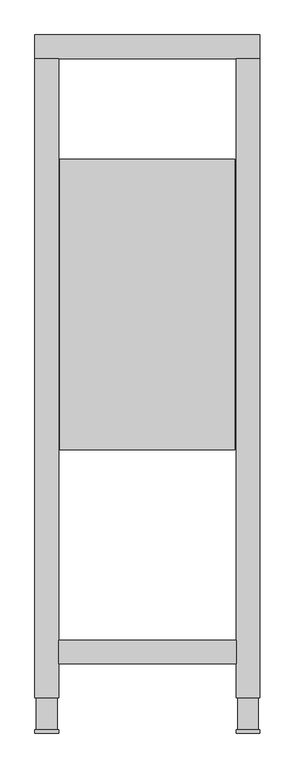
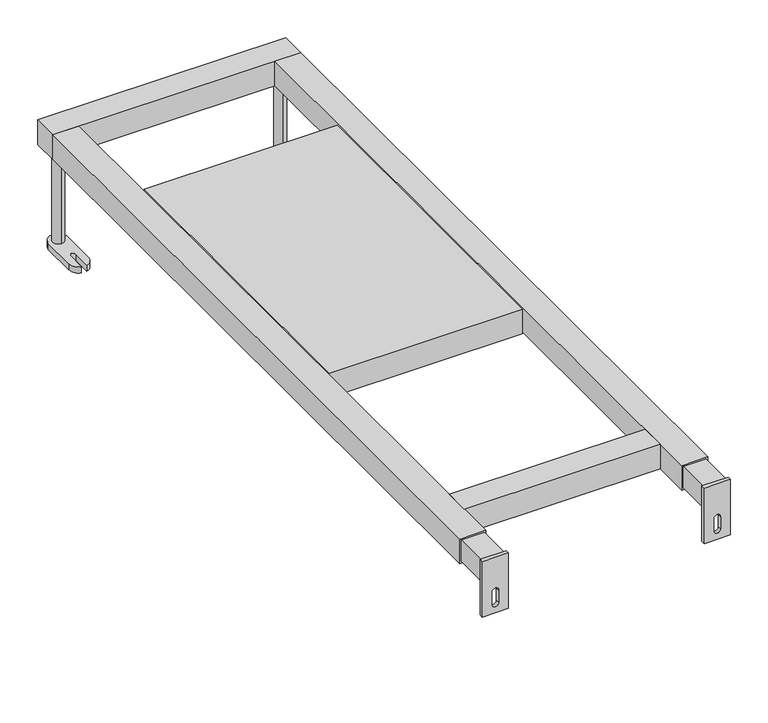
"""IFC4 building model written with IfcOpenShell, lengths in millimetres: sanitary terminal geometry, RSen_74_PF_FB_built in element armrest xs toilet support_wisa : xs toilet support_wisa_built in element armrest."""

from ifc_helpers import new_model, si_unit, point, frame, frame_2d, origin, origin_with_axes, place, context, project, spatial, polyline, circle_curve, trimmed, segment, composite_curve, outline, extrude, source, transform, mapped, element, save


def sanitary_terminal_3e1d858f(model_context):
    return source(origin(), model_context, "Body", "SweptSolid", [
        extrude(outline(polyline([(148.0, 969.9909566), (148.0, 478.9909566), (-148.0, 478.9909566), (-148.0, 969.9909566), (148.0, 969.9909566)])), frame((0.0, 0.0, 160.0), z_axis=(0.0, 0.0, 1.0), x_axis=(1.0, 0.0, 0.0)), (0.0, 0.0, 1.0), 40.0),
        extrude(outline(composite_curve([segment(trimmed(circle_curve(frame_2d((-170.0, 1160.0)), 8.75), [point((-170.0, 1151.25))], [point((-170.0, 1168.75))], False, "CARTESIAN"), True, "CONTINUOUS"), segment(trimmed(circle_curve(frame_2d((-170.0, 1160.0)), 8.75), [point((-170.0, 1168.75))], [point((-170.0, 1151.25))], False, "CARTESIAN"), True, "CONTINUOUS")], self_intersect=False)), frame((0.0, 0.0, 10.0), z_axis=(0.0, 0.0, 1.0), x_axis=(1.0, 0.0, 0.0)), (0.0, 0.0, 1.0), 150.0),
        extrude(outline(composite_curve([segment(trimmed(circle_curve(frame_2d((170.0, 1160.0)), 8.75), [point((170.0, 1151.25))], [point((170.0, 1168.75))], False, "CARTESIAN"), True, "CONTINUOUS"), segment(trimmed(circle_curve(frame_2d((170.0, 1160.0)), 8.75), [point((170.0, 1168.75))], [point((170.0, 1151.25))], False, "CARTESIAN"), True, "CONTINUOUS")], self_intersect=False)), frame((0.0, 0.0, 10.0), z_axis=(0.0, 0.0, 1.0), x_axis=(1.0, 0.0, 0.0)), (0.0, 0.0, 1.0), 150.0),
        extrude(outline(composite_curve([segment(trimmed(circle_curve(frame_2d((-170.0, 1160.0)), 15.0), [point((-185.0, 1160.0))], [point((-155.0, 1160.0))], False, "CARTESIAN"), True, "CONTINUOUS"), segment(polyline([(-155.0, 1160.0), (-155.0, 1106.0)]), True, "CONTINUOUS"), segment(trimmed(circle_curve(frame_2d((-170.0, 1106.0)), 15.0), [point((-155.0, 1106.0))], [point((-166.0, 1091.5431677))], False, "CARTESIAN"), True, "CONTINUOUS"), segment(polyline([(-166.0, 1091.5431677), (-166.0, 1120.4568323)]), True, "CONTINUOUS"), segment(trimmed(circle_curve(frame_2d((-170.0, 1120.4568323)), 4.0), [point((-166.0, 1120.4568323))], [point((-174.0, 1120.4568323))], True, "CARTESIAN"), True, "CONTINUOUS"), segment(polyline([(-174.0, 1120.4568323), (-174.0, 1091.5431677)]), True, "CONTINUOUS"), segment(trimmed(circle_curve(frame_2d((-170.0, 1106.0)), 15.0), [point((-174.0, 1091.5431677))], [point((-185.0, 1106.0))], False, "CARTESIAN"), True, "CONTINUOUS"), segment(polyline([(-185.0, 1106.0), (-185.0, 1160.0)]), True, "CONTINUOUS")], self_intersect=False)), origin_with_axes(), (0.0, 0.0, 1.0), 10.0),
        extrude(outline(composite_curve([segment(polyline([(185.0, 1160.0), (185.0, 1106.0)]), True, "CONTINUOUS"), segment(trimmed(circle_curve(frame_2d((170.0, 1106.0)), 15.0), [point((185.0, 1106.0))], [point((174.0, 1091.5431677))], False, "CARTESIAN"), True, "CONTINUOUS"), segment(polyline([(174.0, 1091.5431677), (174.0, 1120.4568323)]), True, "CONTINUOUS"), segment(trimmed(circle_curve(frame_2d((170.0, 1120.4568323)), 4.0), [point((174.0, 1120.4568323))], [point((166.0, 1120.4568323))], True, "CARTESIAN"), True, "CONTINUOUS"), segment(polyline([(166.0, 1120.4568323), (166.0, 1091.5431677)]), True, "CONTINUOUS"), segment(trimmed(circle_curve(frame_2d((170.0, 1106.0)), 15.0), [point((166.0, 1091.5431677))], [point((155.0, 1106.0))], False, "CARTESIAN"), True, "CONTINUOUS"), segment(polyline([(155.0, 1106.0), (155.0, 1160.0)]), True, "CONTINUOUS"), segment(trimmed(circle_curve(frame_2d((170.0, 1160.0)), 15.0), [point((155.0, 1160.0))], [point((185.0, 1160.0))], False, "CARTESIAN"), True, "CONTINUOUS")], self_intersect=False)), origin_with_axes(), (0.0, 0.0, 1.0), 10.0),
        extrude(outline(polyline([(-187.5, 549.0), (-152.5, 549.0), (-152.5, 6.0), (-187.5, 6.0), (-187.5, 549.0)])), frame((0.0, 0.0, 162.5), z_axis=(0.0, 0.0, 1.0), x_axis=(1.0, 0.0, 0.0)), (0.0, 0.0, 1.0), 35.0),
        extrude(outline(polyline([(152.4841074, 549.0), (187.4841074, 549.0), (187.4841074, 6.0), (152.4841074, 6.0), (152.4841074, 549.0)])), frame((0.0, 0.0, 162.5), z_axis=(0.0, 0.0, 1.0), x_axis=(1.0, 0.0, 0.0)), (0.0, 0.0, 1.0), 35.0),
        extrude(outline(polyline([(200.0, 190.0), (200.0, 150.0), (110.0, 150.0), (110.0, 190.0), (200.0, 190.0)]), holes=[composite_curve([segment(trimmed(circle_curve(frame_2d((145.0, 170.0)), 5.0), [point((145.0, 165.0))], [point((145.0, 175.0))], True, "CARTESIAN"), True, "CONTINUOUS"), segment(polyline([(145.0, 175.0), (125.0, 175.0)]), True, "CONTINUOUS"), segment(trimmed(circle_curve(frame_2d((125.0, 170.0)), 5.0), [point((125.0, 175.0))], [point((125.0, 165.0))], True, "CARTESIAN"), True, "CONTINUOUS"), segment(polyline([(125.0, 165.0), (145.0, 165.0)]), True, "CONTINUOUS")], self_intersect=False)]), frame((0.0, 0.0, 0.0), z_axis=(0.0, 1.0, 0.0), x_axis=(0.0, 0.0, 1.0)), (0.0, 0.0, 1.0), 6.0),
        extrude(outline(polyline([(200.0, -150.0), (200.0, -190.0), (110.0, -190.0), (110.0, -150.0), (200.0, -150.0)]), holes=[composite_curve([segment(trimmed(circle_curve(frame_2d((145.0, -170.0)), 5.0), [point((145.0, -175.0))], [point((145.0, -165.0))], True, "CARTESIAN"), True, "CONTINUOUS"), segment(polyline([(145.0, -165.0), (125.0, -165.0)]), True, "CONTINUOUS"), segment(trimmed(circle_curve(frame_2d((125.0, -170.0)), 5.0), [point((125.0, -165.0))], [point((125.0, -175.0))], True, "CARTESIAN"), True, "CONTINUOUS"), segment(polyline([(125.0, -175.0), (145.0, -175.0)]), True, "CONTINUOUS")], self_intersect=False)]), frame((0.0, 0.0, 0.0), z_axis=(0.0, 1.0, 0.0), x_axis=(0.0, 0.0, 1.0)), (0.0, 0.0, 1.0), 6.0),
        extrude(outline(polyline([(150.0, 157.0), (150.0, 117.0), (-150.0, 117.0), (-150.0, 157.0), (150.0, 157.0)])), frame((0.0, 0.0, 160.0), z_axis=(0.0, 0.0, 1.0), x_axis=(1.0, 0.0, 0.0)), (0.0, 0.0, 1.0), 40.0),
        extrude(outline(polyline([(-150.0, 60.0), (-190.0, 60.0), (-190.0, 1140.0), (-150.0, 1140.0), (-150.0, 60.0)])), frame((0.0, 0.0, 160.0), z_axis=(0.0, 0.0, 1.0), x_axis=(1.0, 0.0, 0.0)), (0.0, 0.0, 1.0), 40.0),
        extrude(outline(polyline([(190.0, 60.0), (150.0, 60.0), (150.0, 1140.0), (190.0, 1140.0), (190.0, 60.0)])), frame((0.0, 0.0, 160.0), z_axis=(0.0, 0.0, 1.0), x_axis=(1.0, 0.0, 0.0)), (0.0, 0.0, 1.0), 40.0),
        extrude(outline(polyline([(190.0, 1180.0), (190.0, 1140.0), (-190.0, 1140.0), (-190.0, 1180.0), (190.0, 1180.0)])), frame((0.0, 0.0, 160.0), z_axis=(0.0, 0.0, 1.0), x_axis=(1.0, 0.0, 0.0)), (0.0, 0.0, 1.0), 40.0),
    ])


if __name__ == "__main__":
    model = new_model("IFC4")
    model_context = context("Model", 3, world=origin())
    ifc_project = project(units=[si_unit("LENGTHUNIT", "METRE", prefix="MILLI")], contexts=[model_context])
    site = spatial("IfcSite", under=ifc_project)
    building = spatial("IfcBuilding", under=site)
    placement = place(None, origin())
    sanitary_terminal_shape = sanitary_terminal_3e1d858f(model_context)
    element("IfcSanitaryTerminal", 1, ObjectType="RSen_74_PF_FB_built in element armrest xs toilet support_wisa : xs toilet support_wisa_built in element armrest", at=placement, inside=building, context=model_context, shape_type="MappedRepresentation", body=[
        mapped(sanitary_terminal_shape, transform((0.0, 0.0, 0.0), x_axis=(1.0, 0.0, 0.0), y_axis=(0.0, 1.0, 0.0), z_axis=(0.0, 0.0, 1.0))),
    ])
    save(model, "model.ifc")
